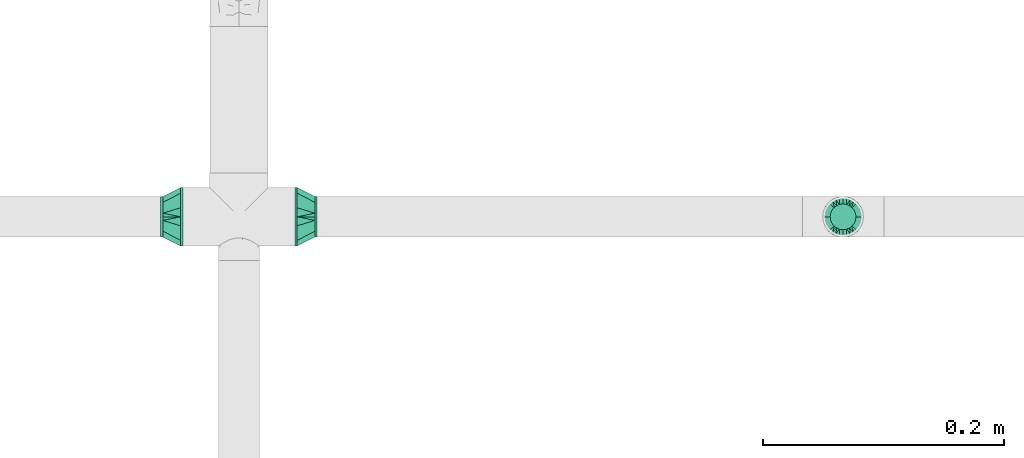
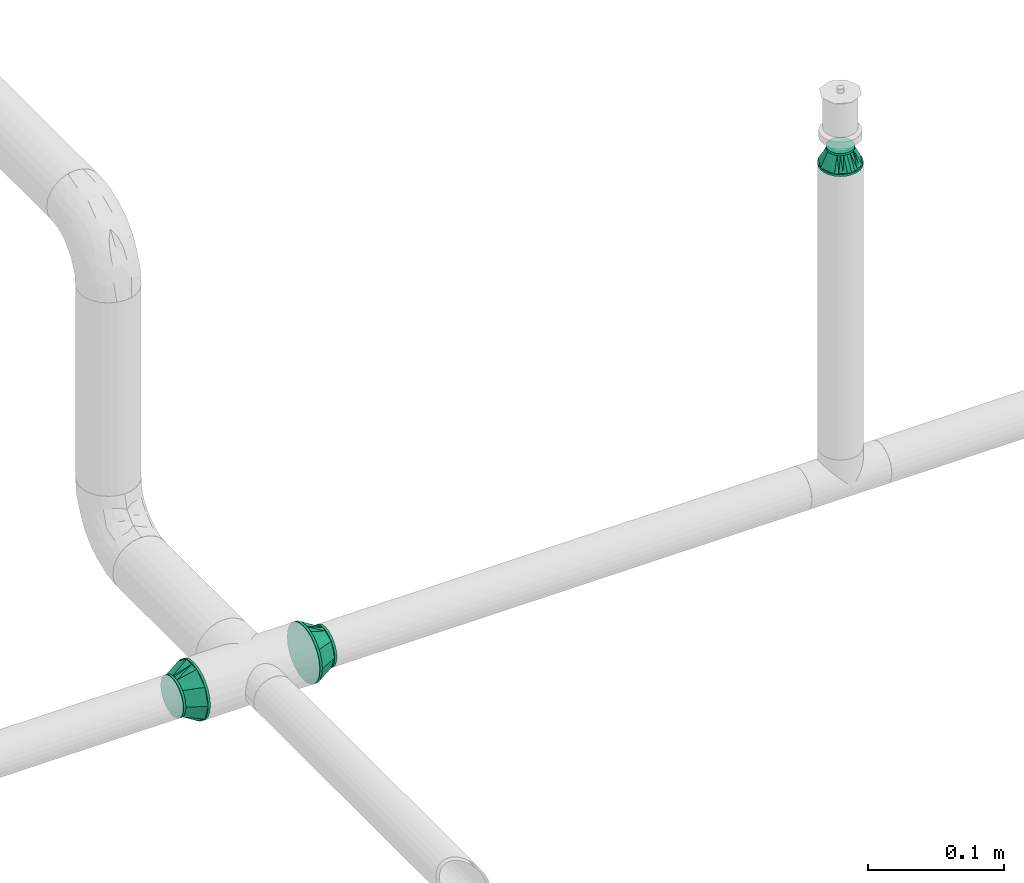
# One storey, part 44 of 157: 3 flow fittings.
"""IFC2X3 building model written with IfcOpenShell, lengths in millimetres."""

from ifc_helpers import new_model, entity, si_unit, converted_unit, derived_unit, direction, frame, origin_with_axes, place, context, subcontext, project, spatial, open_shell, surface_model, source, transform, mapped, type_object, element, save


model = new_model("IFC2X3")

# Units and contexts
model_context = context("Model", 3, precision=0.01, world=frame((0.0, 4.29681676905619e-09, 0.0)), true_north=direction((4.01073788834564e-13, 1.0)))
plan_context = context("Plan", 3, precision=0.01, world=frame((0.0, 4.29681676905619e-09, 0.0)), true_north=direction((4.01073788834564e-13, 1.0)))
body_context = subcontext(model_context, "Body", "Model", "MODEL_VIEW")
ifc_project = project(units=[converted_unit("PLANEANGLEUNIT", "DEGREE", entity("IfcPositiveLengthMeasure", 0.0174532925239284), si_unit("PLANEANGLEUNIT", "RADIAN"), dimensions=[0, 0, 0, 0, 0, 0, 0]), si_unit("AREAUNIT", "SQUARE_METRE"), si_unit("LENGTHUNIT", "METRE", prefix="MILLI"), si_unit("MASSUNIT", "GRAM", prefix="KILO"), si_unit("POWERUNIT", "WATT"), si_unit("PRESSUREUNIT", "PASCAL"), si_unit("FORCEUNIT", "NEWTON", prefix="KILO"), si_unit("ELECTRICCURRENTUNIT", "AMPERE"), si_unit("THERMODYNAMICTEMPERATUREUNIT", "DEGREE_CELSIUS"), si_unit("TIMEUNIT", "SECOND"), si_unit("VOLUMEUNIT", "CUBIC_METRE"), derived_unit("LINEARVELOCITYUNIT", [(si_unit("LENGTHUNIT", "METRE"), 1), (si_unit("TIMEUNIT", "SECOND"), -1)]), derived_unit("VOLUMETRICFLOWRATEUNIT", [(si_unit("VOLUMEUNIT", "CUBIC_METRE"), 1), (si_unit("TIMEUNIT", "SECOND"), -1)]), derived_unit("THERMALTRANSMITTANCEUNIT", [(si_unit("POWERUNIT", "WATT"), 1), (si_unit("THERMODYNAMICTEMPERATUREUNIT", "KELVIN"), -1), (si_unit("AREAUNIT", "SQUARE_METRE"), -1)])], contexts=[model_context, plan_context])

# Site, building, storey
site_placement = place(None, frame((0.0, -4.29681676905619e-09, 0.0), z_axis=(0.0, 0.0, 1.0), x_axis=(1.0, 0.0, 0.0)))
site = spatial("IfcSite", under=ifc_project, at=site_placement, CompositionType="ELEMENT")
building_placement = place(site_placement, frame((0.0, 4.29681676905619e-09, 0.0), z_axis=(0.0, 0.0, 1.0), x_axis=(1.0, 0.0, 0.0)))
building = spatial("IfcBuilding", under=site, at=building_placement, Name="mc-building", CompositionType="ELEMENT")
storey_placement = place(building_placement, frame((0.0, 0.0, 204000.0), z_axis=(0.0, 0.0, 1.0), x_axis=(1.0, 0.0, 0.0)))
storey = spatial("IfcBuildingStorey", under=building, at=storey_placement, Name="Nivå D", CompositionType="ELEMENT", Elevation=204000.0)

# Flow fittings
pipe_fitting_type = type_object("IfcPipeFittingType", Name="magi_pipe_fe_reducer_centric_short_NOR", PredefinedType="TRANSITION")
shared_shape_1 = source(origin_with_axes(), body_context, "Body", "SurfaceModel", [
    surface_model("IfcShellBasedSurfaceModel", [(-2.0, -7.56604, -7.56604), (-2.0, -10.33541, -2.76936), (-2.0, -5.35, -9.26647), (-2.0, 5.35, -9.26647), (-2.0, 10.33541, -2.76936), (-2.0, 7.56604, -7.56604), (12.4, 11.9501, 11.9501), (12.4, 0.0, 16.9), (12.4, 11.9501, -11.9501), (12.4, 16.9, 0.0), (0.0, -10.7, 0.0), (0.0, -5.35, 9.26647), (0.0, -5.35, -9.26647), (0.0, 10.7, 0.0), (12.4, 15.66253, -2.98753), (12.4, 8.96258, -13.18758), (0.0, 6.6875, -6.94985), (12.4, -15.66253, -2.98753), (12.4, -16.9, 0.0), (12.4, 5.97505, -14.42505), (0.0, 5.35, -9.26647), (12.4, 14.42505, -5.97505), (0.0, 8.025, -4.63324), (0.0, 9.3625, -2.31662), (0.0, -9.3625, -2.31662), (0.0, -8.025, -4.63324), (12.4, -14.42505, -5.97505), (12.4, 13.18758, -8.96258), (12.4, -13.18758, -8.96258), (12.4, -11.9501, -11.9501), (0.0, -6.6875, -6.94985), (12.4, -8.96258, -13.18758), (12.4, -5.97505, -14.42505), (12.4, -15.66253, 2.98753), (12.4, -8.96258, 13.18758), (0.0, -6.6875, 6.94985), (12.4, -11.9501, 11.9501), (12.4, 15.66253, 2.98753), (12.4, -5.97505, 14.42505), (12.4, -14.42505, 5.97505), (0.0, -8.025, 4.63324), (0.0, -9.3625, 2.31662), (0.0, 9.3625, 2.31662), (0.0, 8.025, 4.63324), (12.4, 14.42505, 5.97505), (12.4, -13.18758, 8.96258), (12.4, 13.18758, 8.96258), (0.0, 6.6875, 6.94985), (12.4, 8.96258, 13.18758), (0.0, 5.35, 9.26647), (12.4, 5.97505, 14.42505), (14.4, 4.37404, -16.32415), (14.4, 8.45, -14.63583), (14.4, 11.9501, -11.9501), (14.4, -8.45, -14.63583), (14.4, 16.32415, -4.37404), (14.4, 16.32415, 4.37404), (14.4, 14.63583, -8.45), (14.4, 0.0, -16.9), (14.4, -4.37404, -16.32415), (14.4, -11.9501, -11.9501), (14.4, -16.32415, -4.37404), (14.4, -14.63583, -8.45), (14.4, -16.32415, 4.37404), (14.4, 16.9, 0.0), (14.4, 14.63583, 8.45), (14.4, 11.9501, 11.9501), (14.4, 4.37404, 16.32415), (14.4, 8.45, 14.63583), (14.4, 0.0, 16.9), (14.4, -14.63583, 8.45), (14.4, -16.9, 0.0), (14.4, -8.45, 14.63583), (14.4, -11.9501, 11.9501), (14.4, -4.37404, 16.32415), (12.4, 4.37404, 16.32415), (12.4, -14.63583, 8.45), (12.4, 16.32415, 4.37404), (12.4, 8.45, 14.63583), (12.4, 14.63583, 8.45), (12.4, -8.45, 14.63583), (12.4, -4.37404, 16.32415), (12.4, -16.32415, 4.37404), (12.4, -16.32415, -4.37404), (12.4, -8.45, -14.63583), (12.4, 16.32415, -4.37404), (12.4, 14.63583, -8.45), (12.4, 8.45, -14.63583), (12.4, 4.37404, -16.32415), (12.4, 0.0, -16.9), (12.4, -14.63583, -8.45), (12.4, -4.37404, -16.32415), (-2.0, 2.76936, 10.33541), (-2.0, 0.0, 10.7), (-2.0, 5.35, 9.26647), (-2.0, 7.56604, 7.56604), (-2.0, 9.26647, 5.35), (-2.0, 10.33541, 2.76936), (-2.0, -10.33541, 2.76936), (-2.0, -2.76936, 10.33541), (-2.0, -7.56604, 7.56604), (-2.0, -5.35, 9.26647), (-2.0, -9.26647, 5.35), (-2.0, -10.7, 0.0), (-2.0, 9.26647, -5.35), (-2.0, 2.76936, -10.33541), (-2.0, -9.26647, -5.35), (-2.0, 0.0, -10.7), (-2.0, -2.76936, -10.33541), (-2.0, 10.7, 0.0), (0.0, 0.0, -10.7), (0.0, 2.76936, -10.33541), (0.0, 10.33541, -2.76936), (0.0, 7.56604, -7.56604), (0.0, -10.33541, -2.76936), (0.0, 9.26647, -5.35), (0.0, 0.0, 10.7), (0.0, -2.76936, -10.33541), (0.0, -7.56604, -7.56604), (0.0, -9.26647, -5.35), (0.0, 10.33541, 2.76936), (0.0, 9.26647, 5.35), (0.0, 7.56604, 7.56604), (0.0, 2.76936, 10.33541), (0.0, -7.56604, 7.56604), (0.0, -10.33541, 2.76936), (0.0, -9.26647, 5.35), (0.0, -2.76936, 10.33541), (0.0, 2.675, -9.26647), (0.0, -2.675, -9.26647), (12.4, 2.98753, -15.66253), (0.0, 0.0, -9.26647), (12.4, -2.98753, -15.66253), (0.0, -2.675, 9.26647), (0.0, 2.675, 9.26647), (12.4, -2.98753, 15.66253), (0.0, 0.0, 9.26647), (12.4, 2.98753, 15.66253)], [open_shell([[[0, 1, 2]], [[3, 4, 5]], [[6, 7, 8]], [[8, 9, 6]], [[10, 11, 12]], [[13, 9, 14]], [[15, 16, 8]], [[17, 18, 10]], [[15, 19, 20]], [[21, 22, 23]], [[24, 25, 26]], [[22, 21, 27]], [[28, 26, 25]], [[29, 30, 31]], [[12, 32, 31]], [[10, 18, 33]], [[34, 35, 36]], [[37, 9, 13]], [[34, 38, 11]], [[39, 40, 41]], [[42, 43, 44]], [[40, 39, 45]], [[46, 44, 43]], [[6, 47, 48]], [[49, 50, 48]], [[51, 52, 53]], [[54, 51, 53]], [[53, 55, 56]], [[55, 53, 57]], [[53, 56, 54]], [[58, 54, 59]], [[58, 51, 54]], [[60, 61, 62]], [[61, 60, 54]], [[54, 63, 61]], [[56, 55, 64]], [[56, 65, 66]], [[56, 66, 67]], [[67, 63, 54]], [[67, 66, 68]], [[63, 67, 69]], [[69, 70, 63]], [[71, 61, 63]], [[70, 72, 73]], [[70, 69, 72]], [[72, 69, 74]], [[54, 56, 67]], [[75, 76, 7]], [[77, 75, 78]], [[6, 79, 77]], [[6, 77, 78]], [[76, 75, 77]], [[80, 76, 36]], [[80, 81, 7]], [[7, 76, 80]], [[82, 76, 77]], [[82, 83, 18]], [[82, 77, 84]], [[77, 85, 8]], [[8, 85, 86]], [[8, 87, 88]], [[84, 77, 8]], [[88, 89, 8]], [[83, 29, 90]], [[29, 83, 84]], [[84, 89, 91]], [[83, 82, 84]], [[8, 89, 84]], [[85, 77, 9]], [[83, 61, 18]], [[90, 62, 83]], [[54, 29, 84]], [[90, 29, 60]], [[59, 84, 91]], [[83, 62, 61]], [[61, 71, 18]], [[59, 54, 84]], [[60, 29, 54]], [[60, 62, 90]], [[58, 59, 91]], [[91, 89, 58]], [[88, 51, 89]], [[87, 52, 88]], [[57, 8, 86]], [[87, 8, 53]], [[55, 86, 85]], [[87, 53, 52]], [[52, 51, 88]], [[64, 55, 85]], [[57, 86, 55]], [[57, 53, 8]], [[9, 64, 85]], [[89, 51, 58]], [[77, 56, 9]], [[79, 65, 77]], [[68, 6, 78]], [[79, 6, 66]], [[67, 78, 75]], [[77, 65, 56]], [[56, 64, 9]], [[67, 68, 78]], [[66, 6, 68]], [[66, 65, 79]], [[69, 67, 75]], [[75, 7, 69]], [[81, 74, 7]], [[80, 72, 81]], [[70, 36, 76]], [[80, 36, 73]], [[63, 76, 82]], [[80, 73, 72]], [[72, 74, 81]], [[71, 63, 82]], [[70, 76, 63]], [[70, 73, 36]], [[18, 71, 82]], [[7, 74, 69]], [[92, 1, 93]], [[94, 1, 92]], [[95, 96, 97]], [[95, 97, 94]], [[98, 93, 1]], [[99, 100, 101]], [[99, 93, 100]], [[100, 98, 102]], [[93, 98, 100]], [[98, 1, 103]], [[94, 97, 1]], [[1, 97, 4]], [[5, 4, 104]], [[4, 3, 1]], [[105, 1, 3]], [[1, 0, 106]], [[2, 107, 108]], [[2, 1, 105]], [[105, 107, 2]], [[4, 97, 109]], [[20, 110, 111]], [[112, 20, 113]], [[114, 20, 112]], [[112, 113, 115]], [[116, 114, 112]], [[110, 12, 117]], [[110, 20, 12]], [[118, 114, 119]], [[114, 118, 12]], [[20, 114, 12]], [[112, 13, 120]], [[120, 121, 122]], [[120, 122, 123]], [[116, 112, 123]], [[123, 122, 49]], [[116, 124, 114]], [[125, 124, 126]], [[10, 114, 125]], [[124, 127, 11]], [[125, 114, 124]], [[127, 124, 116]], [[123, 112, 120]], [[1, 114, 103]], [[106, 119, 1]], [[12, 0, 2]], [[106, 0, 118]], [[117, 2, 108]], [[1, 119, 114]], [[114, 10, 103]], [[117, 12, 2]], [[118, 0, 12]], [[118, 119, 106]], [[110, 117, 108]], [[108, 107, 110]], [[105, 111, 107]], [[3, 20, 105]], [[115, 5, 104]], [[3, 5, 113]], [[112, 104, 4]], [[3, 113, 20]], [[20, 111, 105]], [[13, 112, 4]], [[115, 104, 112]], [[115, 113, 5]], [[109, 13, 4]], [[107, 111, 110]], [[97, 120, 109]], [[96, 121, 97]], [[49, 95, 94]], [[96, 95, 122]], [[123, 94, 92]], [[97, 121, 120]], [[120, 13, 109]], [[123, 49, 94]], [[122, 95, 49]], [[122, 121, 96]], [[116, 123, 92]], [[92, 93, 116]], [[99, 127, 93]], [[101, 11, 99]], [[126, 100, 102]], [[101, 100, 124]], [[125, 102, 98]], [[101, 124, 11]], [[11, 127, 99]], [[10, 125, 98]], [[126, 102, 125]], [[126, 124, 100]], [[103, 10, 98]], [[93, 127, 116]], [[18, 7, 36]], [[18, 29, 8]], [[89, 8, 29]], [[18, 8, 7]], [[13, 11, 49]], [[13, 20, 12]], [[13, 12, 11]], [[24, 26, 17]], [[10, 24, 17]], [[16, 15, 20]], [[30, 12, 31]], [[23, 14, 21]], [[19, 128, 20]], [[27, 8, 16]], [[32, 12, 129]], [[30, 28, 25]], [[130, 131, 128]], [[129, 132, 32]], [[16, 22, 27]], [[13, 14, 23]], [[128, 19, 130]], [[130, 89, 131]], [[131, 132, 129]], [[89, 132, 131]], [[28, 30, 29]], [[42, 44, 37]], [[13, 42, 37]], [[35, 34, 11]], [[47, 49, 48]], [[41, 33, 39]], [[38, 133, 11]], [[45, 36, 35]], [[50, 49, 134]], [[47, 46, 43]], [[135, 136, 133]], [[134, 137, 50]], [[35, 40, 45]], [[10, 33, 41]], [[133, 38, 135]], [[135, 7, 136]], [[136, 137, 134]], [[7, 137, 136]], [[46, 47, 6]]])]),
])
flow_fitting_placement = place(storey_placement, frame((528259.57985, 407221.65, 3173.54800000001), z_axis=(0.0, 1.0, 0.0), x_axis=(0.0, 0.0, -1.0)))
element("IfcFlowFitting", 1, at=flow_fitting_placement, inside=storey, type_object=pipe_fitting_type, Name="magi_pipe_fe_reducer_centric_short_NOR", context=body_context, shape_type="MappedRepresentation", body=[
    mapped(shared_shape_1, transform((0.0, 0.0, 0.0), scale=1.0)),
])
shared_shape_2 = source(origin_with_axes(), body_context, "Body", "SurfaceModel", [
    surface_model("IfcShellBasedSurfaceModel", [(-2.0, 0.0, 24.2), (-2.0, 6.26342, 23.37541), (-2.0, 12.1, 20.95781), (-2.0, 17.11198, 17.11198), (-2.0, 24.2, 0.0), (-2.0, 20.95781, 12.1), (-2.0, -23.37541, 6.26342), (-2.0, -17.11198, -17.11198), (-2.0, -6.26342, 23.37541), (-2.0, -17.11198, 17.11198), (-2.0, -12.1, 20.95781), (-2.0, -20.95781, 12.1), (-2.0, -24.2, 0.0), (-2.0, 23.37541, 6.26342), (-2.0, 23.37541, -6.26342), (-2.0, 6.26342, -23.37541), (-2.0, 17.11198, -17.11198), (-2.0, 20.95781, -12.1), (-2.0, 12.1, -20.95781), (-2.0, -23.37541, -6.26342), (-2.0, -20.95781, -12.1), (-2.0, -6.26342, -23.37541), (-2.0, -12.1, -20.95781), (-2.0, 0.0, -24.2), (0.0, 24.2, 0.0), (0.0, 6.26342, -23.37541), (0.0, 12.1, -20.95781), (0.0, 23.37541, -6.26342), (0.0, 17.11198, -17.11198), (0.0, 20.95781, -12.1), (0.0, -24.2, 0.0), (0.0, -12.1, -20.95781), (0.0, -6.26342, -23.37541), (0.0, 0.0, -24.2), (0.0, -17.11198, -17.11198), (0.0, -23.37541, -6.26342), (0.0, -20.95781, -12.1), (0.0, 20.95781, 12.1), (0.0, 17.11198, 17.11198), (0.0, 12.1, 20.95781), (0.0, 6.26342, 23.37541), (0.0, 0.0, 24.2), (0.0, -23.37541, 6.26342), (0.0, -17.11198, 17.11198), (0.0, -20.95781, 12.1), (0.0, -6.26342, 23.37541), (0.0, -12.1, 20.95781), (0.0, 23.37541, 6.26342), (0.0, 7.47821, 23.01557), (0.0, 19.57821, 14.2244), (0.0, -7.47821, 23.01557), (0.0, 7.47821, -23.01557), (0.0, 19.57821, -14.2244), (0.0, -7.47821, -23.01557), (0.0, -19.57821, -14.2244), (16.6, 4.37404, -16.32415), (16.6, 8.45, -14.63583), (16.6, 11.9501, -11.9501), (16.6, 0.0, -16.9), (16.6, 16.32415, -4.37404), (16.6, 16.32415, 4.37404), (16.6, 14.63583, -8.45), (16.6, -8.45, 14.63583), (16.6, -8.45, -14.63583), (16.6, -4.37404, -16.32415), (16.6, -11.9501, -11.9501), (16.6, -16.32415, -4.37404), (16.6, -14.63583, -8.45), (16.6, -16.32415, 4.37404), (16.6, 16.9, 0.0), (16.6, 14.63583, 8.45), (16.6, 11.9501, 11.9501), (16.6, 4.37404, 16.32415), (16.6, 8.45, 14.63583), (16.6, 0.0, 16.9), (16.6, -14.63583, 8.45), (16.6, -16.9, 0.0), (16.6, -11.9501, 11.9501), (16.6, -4.37404, 16.32415), (14.6, 11.9501, 11.9501), (14.6, 0.0, 16.9), (14.6, 4.37404, 16.32415), (14.6, 8.45, 14.63583), (14.6, 14.63583, 8.45), (14.6, 16.32415, 4.37404), (14.6, -16.32415, 4.37404), (14.6, -8.45, -14.63583), (14.6, -8.45, 14.63583), (14.6, -14.63583, 8.45), (14.6, -11.9501, 11.9501), (14.6, -4.37404, 16.32415), (14.6, -16.32415, -4.37404), (14.6, -16.9, 0.0), (14.6, 16.32415, -4.37404), (14.6, 11.9501, -11.9501), (14.6, 14.63583, -8.45), (14.6, 8.45, -14.63583), (14.6, 4.37404, -16.32415), (14.6, 0.0, -16.9), (14.6, -11.9501, -11.9501), (14.6, -14.63583, -8.45), (14.6, -4.37404, -16.32415), (14.6, 16.9, 0.0), (0.0, -19.57821, 14.2244), (14.6, -13.18758, -8.96258), (14.6, 14.42505, -5.97505), (0.0, 21.8891, -7.1122), (0.0, 13.52821, -18.61999), (0.0, 16.55321, -16.42219), (14.6, -14.42505, -5.97505), (0.0, -21.8891, -7.1122), (0.0, -20.73366, -10.6683), (14.6, 5.97505, -14.42505), (0.0, 0.0, -23.01557), (14.6, -2.98753, -15.66253), (14.6, 2.98753, -15.66253), (14.6, 8.96258, -13.18758), (14.6, 15.66253, -2.98753), (14.6, -15.66253, -2.98753), (0.0, -13.52821, -18.61999), (14.6, -5.97505, -14.42505), (14.6, -8.96258, -13.18758), (14.6, 13.18758, -8.96258), (14.6, 13.18758, 8.96258), (14.6, -14.42505, 5.97505), (0.0, -21.8891, 7.1122), (0.0, -13.52821, 18.61999), (0.0, -16.55321, 16.42219), (14.6, 14.42505, 5.97505), (0.0, 21.8891, 7.1122), (0.0, 20.73366, 10.6683), (14.6, -5.97505, 14.42505), (0.0, 0.0, 23.01557), (14.6, 2.98753, 15.66253), (14.6, -2.98753, 15.66253), (14.6, -8.96258, 13.18758), (14.6, -15.66253, 2.98753), (14.6, 15.66253, 2.98753), (0.0, 13.52821, 18.61999), (14.6, 5.97505, 14.42505), (14.6, 8.96258, 13.18758), (14.6, -13.18758, 8.96258)], [open_shell([[[0, 1, 2]], [[0, 2, 3]], [[4, 3, 5]], [[6, 0, 7]], [[0, 3, 7]], [[8, 9, 10]], [[8, 0, 9]], [[9, 6, 11]], [[0, 6, 9]], [[6, 7, 12]], [[4, 5, 13]], [[3, 14, 15]], [[16, 14, 17]], [[18, 15, 14]], [[18, 14, 16]], [[15, 7, 3]], [[19, 7, 20]], [[12, 7, 19]], [[15, 21, 22]], [[22, 7, 15]], [[21, 15, 23]], [[14, 3, 4]], [[24, 25, 26]], [[27, 26, 28]], [[27, 24, 26]], [[27, 28, 29]], [[25, 30, 31]], [[25, 32, 33]], [[25, 31, 32]], [[34, 35, 36]], [[34, 31, 30]], [[34, 30, 35]], [[25, 24, 37]], [[37, 38, 25]], [[25, 38, 30]], [[39, 40, 41]], [[39, 41, 38]], [[30, 38, 41]], [[42, 43, 44]], [[45, 42, 30]], [[43, 45, 46]], [[45, 43, 42]], [[30, 41, 45]], [[24, 47, 37]], [[19, 35, 12]], [[20, 36, 19]], [[31, 7, 22]], [[20, 7, 34]], [[32, 22, 21]], [[19, 36, 35]], [[35, 30, 12]], [[32, 31, 22]], [[34, 7, 31]], [[34, 36, 20]], [[33, 32, 21]], [[21, 23, 33]], [[15, 25, 23]], [[18, 26, 15]], [[29, 16, 17]], [[18, 16, 28]], [[27, 17, 14]], [[18, 28, 26]], [[26, 25, 15]], [[24, 27, 14]], [[29, 17, 27]], [[29, 28, 16]], [[4, 24, 14]], [[23, 25, 33]], [[13, 47, 4]], [[5, 37, 13]], [[39, 3, 2]], [[5, 3, 38]], [[40, 2, 1]], [[13, 37, 47]], [[47, 24, 4]], [[40, 39, 2]], [[38, 3, 39]], [[38, 37, 5]], [[41, 40, 1]], [[1, 0, 41]], [[8, 45, 0]], [[10, 46, 8]], [[44, 9, 11]], [[10, 9, 43]], [[42, 11, 6]], [[10, 43, 46]], [[46, 45, 8]], [[30, 42, 6]], [[44, 11, 42]], [[44, 43, 9]], [[12, 30, 6]], [[0, 45, 41]], [[48, 49, 50]], [[49, 51, 30]], [[52, 51, 49]], [[30, 53, 54]], [[30, 51, 53]], [[49, 24, 52]], [[55, 56, 57]], [[58, 55, 57]], [[57, 59, 60]], [[59, 57, 61]], [[57, 62, 63]], [[58, 63, 64]], [[58, 57, 63]], [[65, 66, 67]], [[66, 65, 63]], [[63, 68, 66]], [[60, 59, 69]], [[60, 70, 71]], [[60, 71, 72]], [[60, 72, 62]], [[72, 71, 73]], [[62, 72, 74]], [[68, 62, 75]], [[76, 66, 68]], [[75, 62, 77]], [[62, 68, 63]], [[74, 78, 62]], [[57, 60, 62]], [[79, 80, 81]], [[79, 81, 82]], [[79, 83, 84]], [[79, 84, 80]], [[85, 80, 86]], [[87, 88, 89]], [[88, 87, 90]], [[80, 88, 90]], [[80, 85, 88]], [[85, 91, 92]], [[86, 80, 84]], [[84, 93, 94]], [[94, 93, 95]], [[94, 96, 97]], [[86, 84, 94]], [[97, 98, 94]], [[91, 99, 100]], [[99, 91, 86]], [[86, 98, 101]], [[91, 85, 86]], [[94, 98, 86]], [[93, 84, 102]], [[91, 66, 92]], [[100, 67, 91]], [[63, 99, 86]], [[100, 99, 65]], [[64, 86, 101]], [[91, 67, 66]], [[66, 76, 92]], [[64, 63, 86]], [[65, 99, 63]], [[65, 67, 100]], [[58, 64, 101]], [[101, 98, 58]], [[97, 55, 98]], [[96, 56, 97]], [[61, 94, 95]], [[96, 94, 57]], [[59, 95, 93]], [[96, 57, 56]], [[56, 55, 97]], [[69, 59, 93]], [[61, 95, 59]], [[61, 57, 94]], [[102, 69, 93]], [[98, 55, 58]], [[84, 60, 102]], [[83, 70, 84]], [[73, 79, 82]], [[83, 79, 71]], [[72, 82, 81]], [[84, 70, 60]], [[60, 69, 102]], [[72, 73, 82]], [[71, 79, 73]], [[71, 70, 83]], [[74, 72, 81]], [[81, 80, 74]], [[90, 78, 80]], [[87, 62, 90]], [[75, 89, 88]], [[87, 89, 77]], [[68, 88, 85]], [[87, 77, 62]], [[62, 78, 90]], [[76, 68, 85]], [[75, 88, 68]], [[75, 77, 89]], [[92, 76, 85]], [[80, 78, 74]], [[80, 89, 102]], [[102, 79, 80]], [[89, 99, 102]], [[98, 102, 99]], [[94, 102, 98]], [[99, 89, 92]], [[50, 30, 103]], [[30, 50, 49]], [[54, 99, 104]], [[105, 52, 106]], [[94, 107, 108]], [[109, 110, 111]], [[51, 107, 112]], [[113, 114, 53]], [[113, 115, 98]], [[116, 112, 107]], [[24, 117, 106]], [[51, 115, 113]], [[30, 118, 92]], [[99, 54, 119]], [[119, 120, 121]], [[30, 110, 118]], [[117, 24, 102]], [[52, 105, 122]], [[114, 120, 53]], [[114, 113, 98]], [[51, 112, 115]], [[94, 108, 52]], [[109, 118, 110]], [[54, 104, 111]], [[104, 109, 111]], [[94, 52, 122]], [[120, 119, 53]], [[121, 99, 119]], [[117, 105, 106]], [[107, 94, 116]], [[49, 79, 123]], [[124, 103, 125]], [[89, 126, 127]], [[128, 129, 130]], [[50, 126, 131]], [[132, 133, 48]], [[132, 134, 80]], [[135, 131, 126]], [[30, 136, 125]], [[50, 134, 132]], [[24, 137, 102]], [[79, 49, 138]], [[138, 139, 140]], [[24, 129, 137]], [[136, 30, 92]], [[103, 124, 141]], [[133, 139, 48]], [[133, 132, 80]], [[50, 131, 134]], [[89, 127, 103]], [[128, 137, 129]], [[49, 123, 130]], [[123, 128, 130]], [[89, 103, 141]], [[139, 138, 48]], [[140, 79, 138]], [[136, 124, 125]], [[126, 89, 135]]])]),
])
for number, where, z_axis, x_axis, name in (
    (2, (527806.6357, 407221.65002, 2880.0), (0.0, 0.0, 1.0), (1.0, 0.0, 0.0), "magi_pipe_fe_reducer_centric_short_NOR"),
    (3, (527709.8357, 407221.65002, 2880.0), (0.0, 0.0, 1.0), (-1.0, 0.0, 0.0), "magi_pipe_fe_reducer_centric_short_NOR"),
):
    element("IfcFlowFitting", number, at=place(storey_placement, frame(where, z_axis=z_axis, x_axis=x_axis)), inside=storey, type_object=pipe_fitting_type, Name=name, context=body_context, shape_type="MappedRepresentation", body=[
        mapped(shared_shape_2, transform((0.0, 0.0, 0.0), scale=1.0)),
    ])

save(model, "model.ifc")
